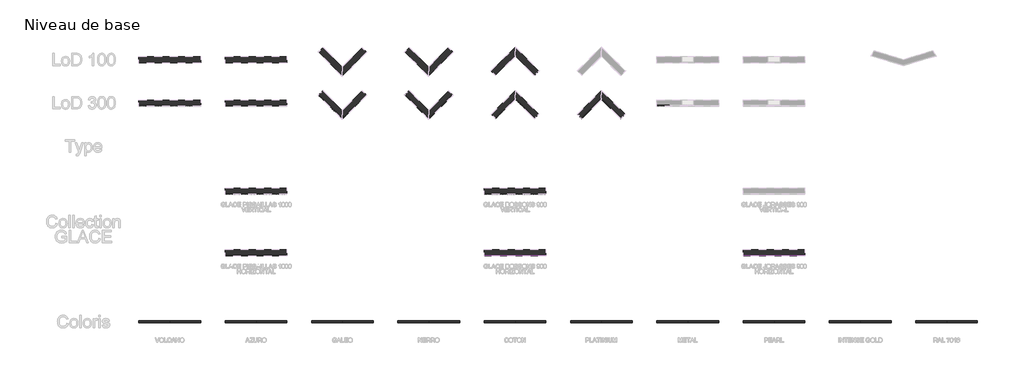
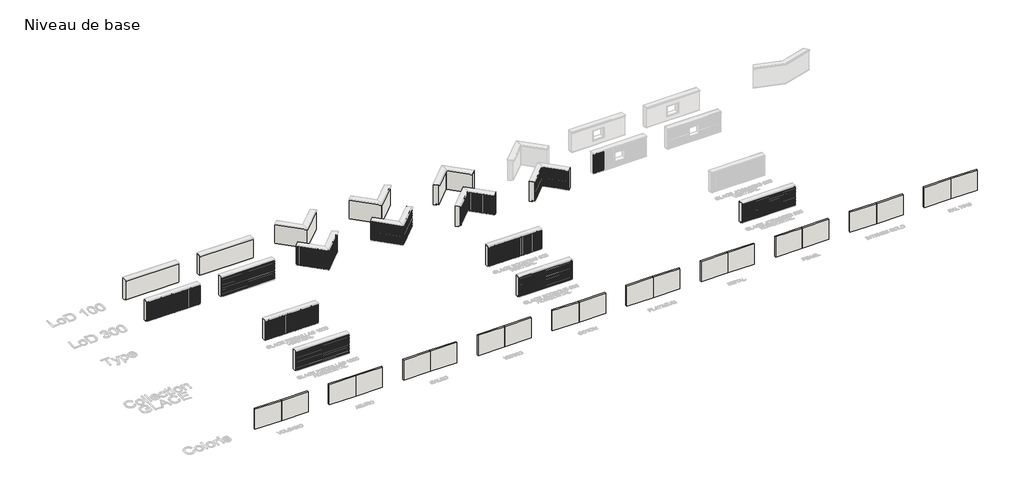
# One storey, part 1 of 13: 47 plates, 43 walls, 6 members.
"""IFC4 building model written with IfcOpenShell, lengths in millimetres."""

from ifc_helpers import new_model, si_unit, frame, origin, origin_with_axes, place, context, project, spatial, polyline, outline, extrude, faceted_brep, transform, mapped, element, save
from components import member_5640643a, member_f168e29d, member_e2f5a6cd, member_e705cef6, member_c28fed5e, member_db60f157, plate_a25a821f, plate_bb810d9b, plate_214b08ff, plate_0162e0f9, plate_1b95be21, plate_263a0a5c, plate_bc900c31, plate_7cee7cfb, plate_a5a6b24f, plate_3c911e78, plate_21100d2b, plate_e6db59d2, plate_addd3eff, plate_5a031bc4, plate_7a9f71c7, plate_172fc0bb, plate_3dbbf8c4, plate_66d4686d

model = new_model("IFC4")

# Units and contexts
model_context = context("Model", 3, world=origin())
ifc_project = project(units=[si_unit("LENGTHUNIT", "METRE", prefix="MILLI")], contexts=[model_context])

# Site, building, storey
site = spatial("IfcSite", under=ifc_project)
building = spatial("IfcBuilding", under=site)
storey = spatial("IfcBuildingStorey", under=building, Name="Niveau de base", Elevation=0.0)

# Members
placement = place(None, origin())
member_shape = member_5640643a(model_context)
element("IfcMember", 1, ObjectType="Meneau d'angle en L : ATELIERS 3S_Angle sortant", at=placement, inside=storey, context=model_context, shape_type="MappedRepresentation", body=[
    mapped(member_shape, transform((-10442.9704237, 40009.4162142, 100.0), x_axis=(0.7071067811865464, -0.7071067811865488, 0.0), y_axis=(-0.7071067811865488, -0.7071067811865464, 0.0), z_axis=(0.0, 0.0, -1.0))),
])
member_2_shape = member_f168e29d(model_context)
element("IfcMember", 2, ObjectType="Meneau d'angle en L : ATELIERS 3S_Angle rentrant", at=placement, inside=storey, context=model_context, shape_type="MappedRepresentation", body=[
    mapped(member_2_shape, transform((3557.0295763, 41631.1656168, 100.0), x_axis=(0.7071067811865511, 0.707106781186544, 0.0), y_axis=(0.707106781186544, -0.7071067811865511, 0.0), z_axis=(0.0, 0.0, -1.0))),
])
member_3_shape = member_e2f5a6cd(model_context)
element("IfcMember", 3, ObjectType="Meneau d'angle en L : ATELIERS 3S_Angle sortant", at=placement, inside=storey, context=model_context, shape_type="MappedRepresentation", body=[
    mapped(member_3_shape, transform((-3442.9704237, 40009.4162142, 2000.0), x_axis=(-0.7071067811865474, -0.7071067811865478, 0.0), y_axis=(0.7071067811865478, -0.7071067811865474, 0.0), z_axis=(0.0, 0.0, 1.0))),
])
member_4_shape = member_e705cef6(model_context)
element("IfcMember", 4, ObjectType="Meneau d'angle en L : ATELIERS 3S_Angle rentrant", at=placement, inside=storey, context=model_context, shape_type="MappedRepresentation", body=[
    mapped(member_4_shape, transform((10557.0295763, 41631.1656168, 1100.0), x_axis=(0.7071067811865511, 0.707106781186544, 0.0), y_axis=(0.707106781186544, -0.7071067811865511, 0.0), z_axis=(0.0, 0.0, -1.0))),
])
member_5_shape = member_c28fed5e(model_context)
element("IfcMember", 5, ObjectType="Meneau d'angle en L : ATELIERS 3S_Angle rentrant", at=placement, inside=storey, context=model_context, shape_type="MappedRepresentation", body=[
    mapped(member_5_shape, transform((10557.0295763, 41631.1656168, 100.0), x_axis=(0.7071067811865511, 0.707106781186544, 0.0), y_axis=(0.707106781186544, -0.7071067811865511, 0.0), z_axis=(0.0, 0.0, -1.0))),
])
member_6_shape = member_db60f157(model_context)
element("IfcMember", 6, ObjectType="Meneau d'angle en L : ATELIERS 3S_Angle sortant", at=placement, inside=storey, context=model_context, shape_type="MappedRepresentation", body=[
    mapped(member_6_shape, transform((-3442.9704237, 40009.4162142, 1100.0), x_axis=(-0.7071067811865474, -0.7071067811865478, 0.0), y_axis=(0.7071067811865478, -0.7071067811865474, 0.0), z_axis=(0.0, 0.0, 1.0))),
])

# Plates
plate_shape = plate_a25a821f(model_context)
element("IfcPlate", 7, ObjectType="ATELIERS 3S_GLACE PISSAILLAS 1000_VERTICAL : AZURO", at=placement, inside=storey, context=model_context, shape_type="MappedRepresentation", body=[
    mapped(plate_shape, transform((-26442.9704236, 41055.7785953, 100.0), x_axis=(1.0, 0.0, 0.0), y_axis=(0.0, 1.0, 0.0), z_axis=(0.0, 0.0, 1.0))),
])
element("IfcPlate", 8, ObjectType="ATELIERS 3S_GLACE PISSAILLAS 1000_VERTICAL : AZURO", at=placement, inside=storey, context=model_context, shape_type="MappedRepresentation", body=[
    mapped(plate_shape, transform((-12009.9190507, 41576.3648412, 100.0), x_axis=(0.7071067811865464, -0.7071067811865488, 0.0), y_axis=(0.7071067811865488, 0.7071067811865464, 0.0), z_axis=(0.0, 0.0, 1.0))),
])
element("IfcPlate", 9, ObjectType="ATELIERS 3S_GLACE PISSAILLAS 1000_VERTICAL : AZURO", at=placement, inside=storey, context=model_context, shape_type="MappedRepresentation", body=[
    mapped(plate_shape, transform((-10080.9317516, 40371.4548863, 100.0), x_axis=(0.7071067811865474, 0.7071067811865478, 0.0), y_axis=(-0.7071067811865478, 0.7071067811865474, 0.0), z_axis=(0.0, 0.0, 1.0))),
])
element("IfcPlate", 10, ObjectType="ATELIERS 3S_GLACE PISSAILLAS 1000_VERTICAL : AZURO", at=placement, inside=storey, context=model_context, shape_type="MappedRepresentation", body=[
    mapped(plate_shape, transform((-11302.8122694, 40869.2580599, 100.0), x_axis=(0.7071067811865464, -0.7071067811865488, 0.0), y_axis=(0.7071067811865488, 0.7071067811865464, 0.0), z_axis=(0.0, 0.0, 1.0))),
])
element("IfcPlate", 11, ObjectType="ATELIERS 3S_GLACE PISSAILLAS 1000_VERTICAL : AZURO", at=placement, inside=storey, context=model_context, shape_type="MappedRepresentation", body=[
    mapped(plate_shape, transform((3002.65786, 41076.7939006, 100.0), x_axis=(0.7071067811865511, 0.707106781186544, 0.0), y_axis=(-0.707106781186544, 0.7071067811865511, 0.0), z_axis=(0.0, 0.0, 1.0))),
])
element("IfcPlate", 12, ObjectType="ATELIERS 3S_GLACE PISSAILLAS 1000_VERTICAL : AZURO", at=placement, inside=storey, context=model_context, shape_type="MappedRepresentation", body=[
    mapped(plate_shape, transform((4653.3986407, 40534.7965524, 100.0), x_axis=(0.7071067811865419, -0.7071067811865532, 0.0), y_axis=(0.7071067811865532, 0.7071067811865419, 0.0), z_axis=(0.0, 0.0, 1.0))),
])
element("IfcPlate", 13, ObjectType="ATELIERS 3S_GLACE PISSAILLAS 1000_VERTICAL : AZURO", at=placement, inside=storey, context=model_context, shape_type="MappedRepresentation", body=[
    mapped(plate_shape, transform((-9373.8249704, 41078.5616676, 100.0), x_axis=(0.7071067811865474, 0.7071067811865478, 0.0), y_axis=(-0.7071067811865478, 0.7071067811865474, 0.0), z_axis=(0.0, 0.0, 1.0))),
])
element("IfcPlate", 14, ObjectType="ATELIERS 3S_GLACE PISSAILLAS 1000_VERTICAL : AZURO", at=placement, inside=storey, context=model_context, shape_type="MappedRepresentation", body=[
    mapped(plate_shape, transform((-25442.9704234, 41055.7785953, 100.0), x_axis=(1.0, 0.0, 0.0), y_axis=(0.0, 1.0, 0.0), z_axis=(0.0, 0.0, 1.0))),
])
element("IfcPlate", 15, ObjectType="ATELIERS 3S_GLACE PISSAILLAS 1000_VERTICAL : AZURO", at=placement, inside=storey, context=model_context, shape_type="MappedRepresentation", body=[
    mapped(plate_shape, transform((-24442.9704234, 41055.7785953, 100.0), x_axis=(1.0, 0.0, 0.0), y_axis=(0.0, 1.0, 0.0), z_axis=(0.0, 0.0, 1.0))),
])
element("IfcPlate", 16, ObjectType="ATELIERS 3S_GLACE PISSAILLAS 1000_VERTICAL : AZURO", at=placement, inside=storey, context=model_context, shape_type="MappedRepresentation", body=[
    mapped(plate_shape, transform((-23442.9704234, 41055.7785953, 100.0), x_axis=(1.0, 0.0, 0.0), y_axis=(0.0, 1.0, 0.0), z_axis=(0.0, 0.0, 1.0))),
])
element("IfcPlate", 17, ObjectType="ATELIERS 3S_GLACE PISSAILLAS 1000_VERTICAL : AZURO", at=placement, inside=storey, context=model_context, shape_type="MappedRepresentation", body=[
    mapped(plate_shape, transform((-22442.9704236, 41055.7785953, 100.0), x_axis=(1.0, 0.0, 0.0), y_axis=(0.0, 1.0, 0.0), z_axis=(0.0, 0.0, 1.0))),
])
element("IfcPlate", 18, ObjectType="ATELIERS 3S_GLACE PISSAILLAS 1000_VERTICAL : AZURO", at=placement, inside=storey, context=model_context, shape_type="MappedRepresentation", body=[
    mapped(plate_shape, transform((-19442.9704236, 33905.7785953, 100.0), x_axis=(1.0, 0.0, 0.0), y_axis=(0.0, 1.0, 0.0), z_axis=(0.0, 0.0, 1.0))),
])
element("IfcPlate", 19, ObjectType="ATELIERS 3S_GLACE PISSAILLAS 1000_VERTICAL : AZURO", at=placement, inside=storey, context=model_context, shape_type="MappedRepresentation", body=[
    mapped(plate_shape, transform((-18442.9704234, 33905.7785953, 100.0), x_axis=(1.0, 0.0, 0.0), y_axis=(0.0, 1.0, 0.0), z_axis=(0.0, 0.0, 1.0))),
])
element("IfcPlate", 20, ObjectType="ATELIERS 3S_GLACE PISSAILLAS 1000_VERTICAL : AZURO", at=placement, inside=storey, context=model_context, shape_type="MappedRepresentation", body=[
    mapped(plate_shape, transform((-17442.9704234, 33905.7785953, 100.0), x_axis=(1.0, 0.0, 0.0), y_axis=(0.0, 1.0, 0.0), z_axis=(0.0, 0.0, 1.0))),
])
element("IfcPlate", 21, ObjectType="ATELIERS 3S_GLACE PISSAILLAS 1000_VERTICAL : AZURO", at=placement, inside=storey, context=model_context, shape_type="MappedRepresentation", body=[
    mapped(plate_shape, transform((-16442.9704234, 33905.7785953, 100.0), x_axis=(1.0, 0.0, 0.0), y_axis=(0.0, 1.0, 0.0), z_axis=(0.0, 0.0, 1.0))),
])
element("IfcPlate", 22, ObjectType="ATELIERS 3S_GLACE PISSAILLAS 1000_VERTICAL : AZURO", at=placement, inside=storey, context=model_context, shape_type="MappedRepresentation", body=[
    mapped(plate_shape, transform((-15442.9704236, 33905.7785953, 100.0), x_axis=(1.0, 0.0, 0.0), y_axis=(0.0, 1.0, 0.0), z_axis=(0.0, 0.0, 1.0))),
])
element("IfcPlate", 23, ObjectType="ATELIERS 3S_GLACE PISSAILLAS 1000_VERTICAL : AZURO", at=placement, inside=storey, context=model_context, shape_type="MappedRepresentation", body=[
    mapped(plate_shape, transform((2295.5510788, 40369.6871193, 100.0), x_axis=(0.7071067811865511, 0.707106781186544, 0.0), y_axis=(-0.707106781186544, 0.7071067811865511, 0.0), z_axis=(0.0, 0.0, 1.0))),
])
element("IfcPlate", 24, ObjectType="ATELIERS 3S_GLACE PISSAILLAS 1000_VERTICAL : AZURO", at=placement, inside=storey, context=model_context, shape_type="MappedRepresentation", body=[
    mapped(plate_shape, transform((3946.2918594, 41241.9033337, 100.0), x_axis=(0.7071067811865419, -0.7071067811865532, 0.0), y_axis=(0.7071067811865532, 0.7071067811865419, 0.0), z_axis=(0.0, 0.0, 1.0))),
])
plate_2_shape = plate_bb810d9b(model_context)
element("IfcPlate", 25, ObjectType="ATELIERS 3S_GLACE PISSAILLAS 1000_VERTICAL : AZURO", at=placement, inside=storey, context=model_context, shape_type="MappedRepresentation", body=[
    mapped(plate_2_shape, transform((-10700.357292, 40266.8030824, 100.0), x_axis=(0.7071067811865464, -0.7071067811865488, 0.0), y_axis=(0.7071067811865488, 0.7071067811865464, 0.0), z_axis=(0.0, 0.0, 1.0))),
])
plate_3_shape = plate_214b08ff(model_context)
element("IfcPlate", 26, ObjectType="ATELIERS 3S_GLACE PISSAILLAS 1000_VERTICAL : AZURO", at=placement, inside=storey, context=model_context, shape_type="MappedRepresentation", body=[
    mapped(plate_3_shape, transform((-8774.7287501, 41677.6578878, 100.0), x_axis=(0.7071067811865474, 0.7071067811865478, 0.0), y_axis=(-0.7071067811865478, 0.7071067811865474, 0.0), z_axis=(0.0, 0.0, 1.0))),
])
plate_4_shape = plate_0162e0f9(model_context)
element("IfcPlate", 27, ObjectType="ATELIERS 3S_GLACE PISSAILLAS 1000_VERTICAL : AZURO", at=placement, inside=storey, context=model_context, shape_type="MappedRepresentation", body=[
    mapped(plate_4_shape, transform((3438.7659672, 41512.9020078, 100.0), x_axis=(0.7071067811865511, 0.707106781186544, 0.0), y_axis=(-0.707106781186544, 0.7071067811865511, 0.0), z_axis=(0.0, 0.0, 1.0))),
])
element("IfcPlate", 28, ObjectType="ATELIERS 3S_GLACE PISSAILLAS 1000_VERTICAL : AZURO", at=placement, inside=storey, context=model_context, shape_type="MappedRepresentation", body=[
    mapped(plate_4_shape, transform((5089.5067479, 40098.6884452, 100.0), x_axis=(0.7071067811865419, -0.7071067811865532, 0.0), y_axis=(0.7071067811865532, 0.7071067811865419, 0.0), z_axis=(0.0, 0.0, 1.0))),
])
plate_5_shape = plate_1b95be21(model_context)
element("IfcPlate", 29, ObjectType="ATELIERS 3S_GLACE PISSAILLAS 1000_HORIZONTAL : AZURO", at=placement, inside=storey, context=model_context, shape_type="MappedRepresentation", body=[
    mapped(plate_5_shape, transform((-17442.9704237, 41055.7785953, 100.0), x_axis=(1.0, 0.0, 0.0), y_axis=(0.0, 1.0, 0.0), z_axis=(0.0, 0.0, 1.0))),
])
element("IfcPlate", 30, ObjectType="ATELIERS 3S_GLACE PISSAILLAS 1000_HORIZONTAL : AZURO", at=placement, inside=storey, context=model_context, shape_type="MappedRepresentation", body=[
    mapped(plate_5_shape, transform((-17442.9704237, 28905.7785953, 100.0), x_axis=(1.0, 0.0, 0.0), y_axis=(0.0, 1.0, 0.0), z_axis=(0.0, 0.0, 1.0))),
])
plate_6_shape = plate_263a0a5c(model_context)
element("IfcPlate", 31, ObjectType="ATELIERS 3S_GLACE PISSAILLAS 1000_HORIZONTAL : AZURO", at=placement, inside=storey, context=model_context, shape_type="MappedRepresentation", body=[
    mapped(plate_6_shape, transform((-4407.4640733, 40973.9098637, 100.0), x_axis=(0.7071067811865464, -0.7071067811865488, 0.0), y_axis=(0.7071067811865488, 0.7071067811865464, 0.0), z_axis=(0.0, 0.0, 1.0))),
])
plate_7_shape = plate_bc900c31(model_context)
element("IfcPlate", 32, ObjectType="ATELIERS 3S_GLACE PISSAILLAS 1000_HORIZONTAL : AZURO", at=placement, inside=storey, context=model_context, shape_type="MappedRepresentation", body=[
    mapped(plate_7_shape, transform((-2481.8355314, 40970.5511065, 100.0), x_axis=(0.7071067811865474, 0.7071067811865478, 0.0), y_axis=(-0.7071067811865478, 0.7071067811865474, 0.0), z_axis=(0.0, 0.0, 1.0))),
])
plate_8_shape = plate_7cee7cfb(model_context)
element("IfcPlate", 33, ObjectType="ATELIERS 3S_GLACE PISSAILLAS 1000_HORIZONTAL : AZURO", at=placement, inside=storey, context=model_context, shape_type="MappedRepresentation", body=[
    mapped(plate_8_shape, transform((-17442.9704237, 41055.7785953, 1100.0), x_axis=(1.0, 0.0, 0.0), y_axis=(0.0, 1.0, 0.0), z_axis=(0.0, 0.0, 1.0))),
])
element("IfcPlate", 34, ObjectType="ATELIERS 3S_GLACE PISSAILLAS 1000_HORIZONTAL : AZURO", at=placement, inside=storey, context=model_context, shape_type="MappedRepresentation", body=[
    mapped(plate_8_shape, transform((-17442.9704237, 28905.7785953, 1100.0), x_axis=(1.0, 0.0, 0.0), y_axis=(0.0, 1.0, 0.0), z_axis=(0.0, 0.0, 1.0))),
])
plate_9_shape = plate_a5a6b24f(model_context)
element("IfcPlate", 35, ObjectType="ATELIERS 3S_GLACE PISSAILLAS 1000_HORIZONTAL : AZURO", at=placement, inside=storey, context=model_context, shape_type="MappedRepresentation", body=[
    mapped(plate_9_shape, transform((-4407.4640733, 40973.9098637, 1100.0), x_axis=(0.7071067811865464, -0.7071067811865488, 0.0), y_axis=(0.7071067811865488, 0.7071067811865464, 0.0), z_axis=(0.0, 0.0, 1.0))),
])
plate_10_shape = plate_3c911e78(model_context)
element("IfcPlate", 36, ObjectType="ATELIERS 3S_GLACE PISSAILLAS 1000_HORIZONTAL : AZURO", at=placement, inside=storey, context=model_context, shape_type="MappedRepresentation", body=[
    mapped(plate_10_shape, transform((-2481.8355314, 40970.5511065, 1100.0), x_axis=(0.7071067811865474, 0.7071067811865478, 0.0), y_axis=(-0.7071067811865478, 0.7071067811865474, 0.0), z_axis=(0.0, 0.0, 1.0))),
])
plate_11_shape = plate_21100d2b(model_context)
element("IfcPlate", 37, ObjectType="ATELIERS 3S_GLACE PISSAILLAS 1000_HORIZONTAL : AZURO", at=placement, inside=storey, context=model_context, shape_type="MappedRepresentation", body=[
    mapped(plate_11_shape, transform((9731.6591859, 40805.7952265, 1100.0), x_axis=(0.7071067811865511, 0.707106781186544, 0.0), y_axis=(-0.707106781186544, 0.7071067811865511, 0.0), z_axis=(0.0, 0.0, 1.0))),
])
element("IfcPlate", 38, ObjectType="ATELIERS 3S_GLACE PISSAILLAS 1000_HORIZONTAL : AZURO", at=placement, inside=storey, context=model_context, shape_type="MappedRepresentation", body=[
    mapped(plate_11_shape, transform((11382.3999666, 40805.7952265, 1100.0), x_axis=(0.7071067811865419, -0.7071067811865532, 0.0), y_axis=(0.7071067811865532, 0.7071067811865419, 0.0), z_axis=(0.0, 0.0, 1.0))),
])
plate_12_shape = plate_e6db59d2(model_context)
element("IfcPlate", 39, ObjectType="ATELIERS 3S_GLACE PISSAILLAS 1000_HORIZONTAL : AZURO", at=placement, inside=storey, context=model_context, shape_type="MappedRepresentation", body=[
    mapped(plate_12_shape, transform((9731.6591859, 40805.7952265, 100.0), x_axis=(0.7071067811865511, 0.707106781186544, 0.0), y_axis=(-0.707106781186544, 0.7071067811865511, 0.0), z_axis=(0.0, 0.0, 1.0))),
])
element("IfcPlate", 40, ObjectType="ATELIERS 3S_GLACE PISSAILLAS 1000_HORIZONTAL : AZURO", at=placement, inside=storey, context=model_context, shape_type="MappedRepresentation", body=[
    mapped(plate_12_shape, transform((11382.3999666, 40805.7952265, 100.0), x_axis=(0.7071067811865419, -0.7071067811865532, 0.0), y_axis=(0.7071067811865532, 0.7071067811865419, 0.0), z_axis=(0.0, 0.0, 1.0))),
])
plate_13_shape = plate_addd3eff(model_context)
element("IfcPlate", 41, ObjectType="ATELIERS 3S_GLACE JORASSES 900_HORIZONTAL : AZURO", at=placement, inside=storey, context=model_context, shape_type="MappedRepresentation", body=[
    mapped(plate_13_shape, transform((24557.0295763, 28905.7785953, 100.0), x_axis=(1.0, 0.0, 0.0), y_axis=(0.0, 1.0, 0.0), z_axis=(0.0, 0.0, 1.0))),
])
element("IfcPlate", 42, ObjectType="ATELIERS 3S_GLACE JORASSES 900_HORIZONTAL : AZURO", at=placement, inside=storey, context=model_context, shape_type="MappedRepresentation", body=[
    mapped(plate_13_shape, transform((24557.0295763, 28905.7785953, 1000.0), x_axis=(1.0, 0.0, 0.0), y_axis=(0.0, 1.0, 0.0), z_axis=(0.0, 0.0, 1.0))),
])
plate_14_shape = plate_5a031bc4(model_context)
element("IfcPlate", 43, ObjectType="ATELIERS 3S_GLACE JORASSES 900_HORIZONTAL : AZURO", at=placement, inside=storey, context=model_context, shape_type="MappedRepresentation", body=[
    mapped(plate_14_shape, transform((24557.0295763, 28905.7785953, 1900.0), x_axis=(1.0, 0.0, 0.0), y_axis=(0.0, 1.0, 0.0), z_axis=(0.0, 0.0, 1.0))),
])
element("IfcPlate", 44, ObjectType="ATELIERS 3S_GLACE PISSAILLAS 1000_VERTICAL : AZURO", at=placement, inside=storey, context=model_context, shape_type="MappedRepresentation", body=[
    mapped(plate_shape, transform((15557.0295764, 41054.9785953, 100.0), x_axis=(1.0, 0.0, 0.0), y_axis=(0.0, 1.0, 0.0), z_axis=(0.0, 0.0, 1.0))),
])
plate_15_shape = plate_7a9f71c7(model_context)
element("IfcPlate", 45, ObjectType="ATELIERS 3S_GLACE BOSSONS 900_VERTICAL : AZURO", at=placement, inside=storey, context=model_context, shape_type="MappedRepresentation", body=[
    mapped(plate_15_shape, transform((1507.0295764, 33905.7785953, 100.0), x_axis=(1.0, 0.0, 0.0), y_axis=(0.0, 1.0, 0.0), z_axis=(0.0, 0.0, 1.0))),
])
element("IfcPlate", 46, ObjectType="ATELIERS 3S_GLACE BOSSONS 900_VERTICAL : AZURO", at=placement, inside=storey, context=model_context, shape_type="MappedRepresentation", body=[
    mapped(plate_15_shape, transform((2407.0295766, 33905.7785953, 100.0), x_axis=(1.0, 0.0, 0.0), y_axis=(0.0, 1.0, 0.0), z_axis=(0.0, 0.0, 1.0))),
])
element("IfcPlate", 47, ObjectType="ATELIERS 3S_GLACE BOSSONS 900_VERTICAL : AZURO", at=placement, inside=storey, context=model_context, shape_type="MappedRepresentation", body=[
    mapped(plate_15_shape, transform((3307.0295766, 33905.7785953, 100.0), x_axis=(1.0, 0.0, 0.0), y_axis=(0.0, 1.0, 0.0), z_axis=(0.0, 0.0, 1.0))),
])
element("IfcPlate", 48, ObjectType="ATELIERS 3S_GLACE BOSSONS 900_VERTICAL : AZURO", at=placement, inside=storey, context=model_context, shape_type="MappedRepresentation", body=[
    mapped(plate_15_shape, transform((4207.0295766, 33905.7785953, 100.0), x_axis=(1.0, 0.0, 0.0), y_axis=(0.0, 1.0, 0.0), z_axis=(0.0, 0.0, 1.0))),
])
element("IfcPlate", 49, ObjectType="ATELIERS 3S_GLACE BOSSONS 900_VERTICAL : AZURO", at=placement, inside=storey, context=model_context, shape_type="MappedRepresentation", body=[
    mapped(plate_15_shape, transform((5107.0295766, 33905.7785953, 100.0), x_axis=(1.0, 0.0, 0.0), y_axis=(0.0, 1.0, 0.0), z_axis=(0.0, 0.0, 1.0))),
])
plate_16_shape = plate_172fc0bb(model_context)
element("IfcPlate", 50, ObjectType="ATELIERS 3S_GLACE BOSSONS 900_VERTICAL : AZURO", at=placement, inside=storey, context=model_context, shape_type="MappedRepresentation", body=[
    mapped(plate_16_shape, transform((5807.0295764, 33905.7785953, 100.0), x_axis=(1.0, 0.0, 0.0), y_axis=(0.0, 1.0, 0.0), z_axis=(0.0, 0.0, 1.0))),
])
plate_17_shape = plate_3dbbf8c4(model_context)
element("IfcPlate", 51, ObjectType="ATELIERS 3S_GLACE BOSSONS 900_HORIZONTAL : AZURO", at=placement, inside=storey, context=model_context, shape_type="MappedRepresentation", body=[
    mapped(plate_17_shape, transform((3557.0295763, 28905.7785953, 100.0), x_axis=(1.0, 0.0, 0.0), y_axis=(0.0, 1.0, 0.0), z_axis=(0.0, 0.0, 1.0))),
])
element("IfcPlate", 52, ObjectType="ATELIERS 3S_GLACE BOSSONS 900_HORIZONTAL : AZURO", at=placement, inside=storey, context=model_context, shape_type="MappedRepresentation", body=[
    mapped(plate_17_shape, transform((3557.0295763, 28905.7785953, 1000.0), x_axis=(1.0, 0.0, 0.0), y_axis=(0.0, 1.0, 0.0), z_axis=(0.0, 0.0, 1.0))),
])
plate_18_shape = plate_66d4686d(model_context)
element("IfcPlate", 53, ObjectType="ATELIERS 3S_GLACE BOSSONS 900_HORIZONTAL : AZURO", at=placement, inside=storey, context=model_context, shape_type="MappedRepresentation", body=[
    mapped(plate_18_shape, transform((3557.0295763, 28905.7785953, 1900.0), x_axis=(1.0, 0.0, 0.0), y_axis=(0.0, 1.0, 0.0), z_axis=(0.0, 0.0, 1.0))),
])

# Walls
element("IfcWall", 54, ObjectType="ATELIERS 3S_GLACE PISSAILLAS 1000_VERTICAL_AZURO_LoD 100", at=placement, inside=storey, context=model_context, shape_type="SweptSolid", body=[
    extrude(outline(polyline([(44535.7785953, 100.0), (44535.7785953, 2000.0), (45007.7785953, 2000.0), (45007.7785953, 0.0), (44757.7785953, 0.0), (44757.7785953, 100.0), (44576.7785953, 100.0), (44576.7785953, 130.0), (44575.7785953, 130.0), (44575.7785953, 100.0), (44535.7785953, 100.0)])), frame((-26942.9704237, 0.0, 0.0), z_axis=(1.0, 0.0, 0.0), x_axis=(0.0, 1.0, 0.0)), (0.0, 0.0, 1.0), 5000.0),
])
element("IfcWall", 55, ObjectType="ATELIERS 3S_Mur de base_LoD 300", at=placement, inside=storey, context=model_context, shape_type="Brep", body=[
    faceted_brep([(3557.0295763, 41631.1656168, 2000.0), (1941.9976881, 40016.1337286, 2000.0), (1941.9976881, 40016.1337286, 130.0), (3557.0295763, 41631.1656168, 130.0), (3557.0295763, 42242.1058758, 0.0), (1636.5275586, 40321.6038581, 0.0), (1636.5275586, 40321.6038581, 2000.0), (3557.0295763, 42242.1058758, 2000.0), (1813.3042539, 40144.8271628, 0.0), (1813.3042539, 40144.8271628, 100.0), (1941.2905813, 40016.8408354, 100.0), (1941.2905813, 40016.8408354, 130.0), (3557.0295763, 41632.5798304, 130.0), (3557.0295763, 41632.5798304, 100.0), (3557.0295763, 41888.5524852, 100.0), (3557.0295763, 41888.5524852, 0.0)], [[[0, 1, 2, 3]], [[4, 5, 6, 7]], [[1, 0, 7, 6]], [[6, 5, 8, 9, 10, 11, 2, 1]], [[4, 7, 0, 3, 12, 13, 14, 15]], [[5, 4, 15, 8]], [[9, 8, 15, 14]], [[9, 14, 13, 10]], [[11, 12, 3, 2]], [[12, 11, 10, 13]]]),
])
element("IfcWall", 56, ObjectType="ATELIERS 3S_Mur de base_LoD 300", at=placement, inside=storey, context=model_context, shape_type="Brep", body=[
    faceted_brep([(5172.0614645, 40016.1337286, 2000.0), (3557.0295763, 41631.1656168, 2000.0), (3557.0295763, 41631.1656168, 130.0), (5172.0614645, 40016.1337286, 130.0), (5477.531594, 40321.6038581, 0.0), (3557.0295763, 42242.1058758, 0.0), (3557.0295763, 42242.1058758, 2000.0), (5477.531594, 40321.6038581, 2000.0), (5172.7685713, 40016.8408354, 130.0), (5172.7685713, 40016.8408354, 100.0), (5300.7548987, 40144.8271628, 100.0), (5300.7548987, 40144.8271628, 0.0), (3557.0295763, 41888.5524852, 0.0), (3557.0295763, 41888.5524852, 100.0), (3557.0295763, 41632.5798304, 100.0), (3557.0295763, 41632.5798304, 130.0)], [[[0, 1, 2, 3]], [[4, 5, 6, 7]], [[4, 7, 0, 3, 8, 9, 10, 11]], [[1, 0, 7, 6]], [[1, 6, 5, 12, 13, 14, 15, 2]], [[5, 4, 11, 12]], [[13, 12, 11, 10]], [[13, 10, 9, 14]], [[15, 8, 3, 2]], [[8, 15, 14, 9]]]),
])
element("IfcWall", 57, ObjectType="ATELIERS 3S_GLACE PISSAILLAS 1000_VERTICAL_AZURO_LoD 100", at=placement, inside=storey, context=model_context, shape_type="Brep", body=[
    faceted_brep([(3557.0295763, 45102.8813456, 2000.0), (1956.1398237, 43501.991593, 2000.0), (1956.1398237, 43501.991593, 100.0), (3557.0295763, 45102.8813456, 100.0), (3557.0295763, 45770.390147, 0.0), (1622.385423, 43835.7459937, 0.0), (1622.385423, 43835.7459937, 2000.0), (3557.0295763, 45770.390147, 2000.0), (1799.1621183, 43658.9692984, 0.0), (1799.1621183, 43658.9692984, 100.0), (1927.1484456, 43530.982971, 100.0), (1927.1484456, 43530.982971, 130.0), (1927.8555524, 43530.2758642, 130.0), (1927.8555524, 43530.2758642, 100.0), (3557.0295763, 45159.4498881, 100.0), (3557.0295763, 45159.4498881, 130.0), (3557.0295763, 45160.8641016, 130.0), (3557.0295763, 45160.8641016, 100.0), (3557.0295763, 45416.8367564, 100.0), (3557.0295763, 45416.8367564, 0.0)], [[[0, 1, 2, 3]], [[4, 5, 6, 7]], [[1, 0, 7, 6]], [[2, 1, 6, 5, 8, 9, 10, 11, 12, 13]], [[0, 3, 14, 15, 16, 17, 18, 19, 4, 7]], [[5, 4, 19, 8]], [[9, 8, 19, 18]], [[3, 2, 13, 14]], [[9, 18, 17, 10]], [[15, 12, 11, 16]], [[16, 11, 10, 17]], [[12, 15, 14, 13]]]),
])
element("IfcWall", 58, ObjectType="ATELIERS 3S_GLACE PISSAILLAS 1000_VERTICAL_AZURO_LoD 100", at=placement, inside=storey, context=model_context, shape_type="Brep", body=[
    faceted_brep([(5157.9193289, 43501.991593, 100.0), (5157.9193289, 43501.991593, 2000.0), (3557.0295763, 45102.8813456, 2000.0), (3557.0295763, 45102.8813456, 100.0), (5491.6737296, 43835.7459937, 0.0), (3557.0295763, 45770.390147, 0.0), (3557.0295763, 45770.390147, 2000.0), (5491.6737296, 43835.7459937, 2000.0), (5186.2036001, 43530.2758642, 100.0), (5186.2036001, 43530.2758642, 130.0), (5186.9107069, 43530.982971, 130.0), (5186.9107069, 43530.982971, 100.0), (5314.8970343, 43658.9692984, 100.0), (5314.8970343, 43658.9692984, 0.0), (3557.0295763, 45416.8367564, 0.0), (3557.0295763, 45416.8367564, 100.0), (3557.0295763, 45160.8641016, 100.0), (3557.0295763, 45160.8641016, 130.0), (3557.0295763, 45159.4498881, 130.0), (3557.0295763, 45159.4498881, 100.0)], [[[0, 1, 2, 3]], [[4, 5, 6, 7]], [[1, 0, 8, 9, 10, 11, 12, 13, 4, 7]], [[2, 1, 7, 6]], [[3, 2, 6, 5, 14, 15, 16, 17, 18, 19]], [[5, 4, 13, 14]], [[15, 14, 13, 12]], [[0, 3, 19, 8]], [[15, 12, 11, 16]], [[9, 18, 17, 10]], [[10, 17, 16, 11]], [[18, 9, 8, 19]]]),
])
element("IfcWall", 59, ObjectType="ATELIERS 3S_Mur de base_LoD 300", at=placement, inside=storey, context=model_context, shape_type="Brep", body=[
    faceted_brep([(-8827.9385355, 42235.3883614, 0.0), (-10442.9704237, 40620.3564731, 0.0), (-10442.9704237, 40620.3564731, 2000.0), (-8827.9385355, 42235.3883614, 2000.0), (-8522.468406, 41929.9182319, 2000.0), (-10442.9704237, 40009.4162142, 2000.0), (-10442.9704237, 40009.4162142, 130.0), (-8522.468406, 41929.9182319, 130.0), (-8523.1755128, 41930.6253387, 130.0), (-8523.1755128, 41930.6253387, 100.0), (-8651.1618402, 42058.6116661, 100.0), (-8651.1618402, 42058.6116661, 0.0), (-10442.9704237, 40266.8030825, 0.0), (-10442.9704237, 40266.8030825, 100.0), (-10442.9704237, 40010.8304277, 100.0), (-10442.9704237, 40010.8304277, 130.0)], [[[0, 1, 2, 3]], [[4, 5, 6, 7]], [[3, 2, 5, 4]], [[0, 3, 4, 7, 8, 9, 10, 11]], [[2, 1, 12, 13, 14, 15, 6, 5]], [[1, 0, 11, 12]], [[12, 11, 10, 13]], [[13, 10, 9, 14]], [[8, 15, 14, 9]], [[15, 8, 7, 6]]]),
])
element("IfcWall", 60, ObjectType="ATELIERS 3S_Mur de base_LoD 300", at=placement, inside=storey, context=model_context, shape_type="Brep", body=[
    faceted_brep([(-10442.9704237, 40620.3564731, 0.0), (-12058.002312, 42235.3883614, 0.0), (-12058.002312, 42235.3883614, 2000.0), (-10442.9704237, 40620.3564731, 2000.0), (-10442.9704237, 40009.4162142, 2000.0), (-12363.4724414, 41929.9182319, 2000.0), (-12363.4724414, 41929.9182319, 130.0), (-10442.9704237, 40009.4162142, 130.0), (-12234.7790072, 42058.6116661, 0.0), (-12234.7790072, 42058.6116661, 100.0), (-12362.7653346, 41930.6253387, 100.0), (-12362.7653346, 41930.6253387, 130.0), (-10442.9704237, 40010.8304277, 130.0), (-10442.9704237, 40010.8304277, 100.0), (-10442.9704237, 40266.8030825, 100.0), (-10442.9704237, 40266.8030825, 0.0)], [[[0, 1, 2, 3]], [[4, 5, 6, 7]], [[2, 1, 8, 9, 10, 11, 6, 5]], [[3, 2, 5, 4]], [[0, 3, 4, 7, 12, 13, 14, 15]], [[1, 0, 15, 8]], [[8, 15, 14, 9]], [[9, 14, 13, 10]], [[11, 12, 7, 6]], [[12, 11, 10, 13]]]),
])
element("IfcWall", 61, ObjectType="ATELIERS 3S_GLACE PISSAILLAS 1000_VERTICAL_AZURO_LoD 100", at=placement, inside=storey, context=model_context, shape_type="Brep", body=[
    faceted_brep([(-8842.0806711, 45749.530497, 0.0), (-10442.9704237, 44148.6407444, 0.0), (-10442.9704237, 44148.6407444, 2000.0), (-8842.0806711, 45749.530497, 2000.0), (-8508.3262704, 45415.7760963, 2000.0), (-10442.9704237, 43481.1319429, 2000.0), (-10442.9704237, 43481.1319429, 100.0), (-8508.3262704, 45415.7760963, 100.0), (-8536.6105416, 45444.0603675, 100.0), (-8536.6105416, 45444.0603675, 130.0), (-8537.3176484, 45444.7674743, 130.0), (-8537.3176484, 45444.7674743, 100.0), (-8665.3039758, 45572.7538017, 100.0), (-8665.3039758, 45572.7538017, 0.0), (-10442.9704237, 43795.0873538, 0.0), (-10442.9704237, 43795.0873538, 100.0), (-10442.9704237, 43539.114699, 100.0), (-10442.9704237, 43539.114699, 130.0), (-10442.9704237, 43537.7004854, 130.0), (-10442.9704237, 43537.7004854, 100.0)], [[[0, 1, 2, 3]], [[4, 5, 6, 7]], [[3, 2, 5, 4]], [[0, 3, 4, 7, 8, 9, 10, 11, 12, 13]], [[2, 1, 14, 15, 16, 17, 18, 19, 6, 5]], [[1, 0, 13, 14]], [[14, 13, 12, 15]], [[7, 6, 19, 8]], [[15, 12, 11, 16]], [[18, 9, 8, 19]], [[10, 17, 16, 11]], [[9, 18, 17, 10]]]),
])
element("IfcWall", 62, ObjectType="ATELIERS 3S_GLACE PISSAILLAS 1000_VERTICAL_AZURO_LoD 100", at=placement, inside=storey, context=model_context, shape_type="Brep", body=[
    faceted_brep([(-10442.9704237, 44148.6407444, 0.0), (-12043.8601763, 45749.530497, 0.0), (-12043.8601763, 45749.530497, 2000.0), (-10442.9704237, 44148.6407444, 2000.0), (-12377.614577, 45415.7760963, 2000.0), (-12377.614577, 45415.7760963, 100.0), (-10442.9704237, 43481.1319429, 100.0), (-10442.9704237, 43481.1319429, 2000.0), (-12220.6368716, 45572.7538017, 0.0), (-12220.6368716, 45572.7538017, 100.0), (-12348.623199, 45444.7674743, 100.0), (-12348.623199, 45444.7674743, 130.0), (-12349.3303058, 45444.0603675, 130.0), (-12349.3303058, 45444.0603675, 100.0), (-10442.9704237, 43537.7004854, 100.0), (-10442.9704237, 43537.7004854, 130.0), (-10442.9704237, 43539.114699, 130.0), (-10442.9704237, 43539.114699, 100.0), (-10442.9704237, 43795.0873538, 100.0), (-10442.9704237, 43795.0873538, 0.0)], [[[0, 1, 2, 3]], [[4, 5, 6, 7]], [[2, 1, 8, 9, 10, 11, 12, 13, 5, 4]], [[3, 2, 4, 7]], [[0, 3, 7, 6, 14, 15, 16, 17, 18, 19]], [[1, 0, 19, 8]], [[8, 19, 18, 9]], [[6, 5, 13, 14]], [[9, 18, 17, 10]], [[11, 16, 15, 12]], [[12, 15, 14, 13]], [[16, 11, 10, 17]]]),
])
element("IfcWall", 63, ObjectType="ATELIERS 3S_Mur de base_LoD 300", at=placement, inside=storey, context=model_context, shape_type="SweptSolid", body=[
    extrude(outline(polyline([(41487.7785953, 2000.0), (41487.7785953, 0.0), (41237.7785953, 0.0), (41237.7785953, 100.0), (41056.7785953, 100.0), (41056.7785953, 130.0), (41055.7785953, 130.0), (41055.7785953, 2000.0), (41487.7785953, 2000.0)])), frame((-26942.9704237, 0.0, 0.0), z_axis=(1.0, 0.0, 0.0), x_axis=(0.0, 1.0, 0.0)), (0.0, 0.0, 1.0), 5000.0),
])
element("IfcWall", 64, ObjectType="Générique - 150 mm", at=placement, inside=storey, context=model_context, shape_type="SweptSolid", body=[
    extrude(outline(polyline([(-24442.9704237, 23446.7785953), (-26942.9704237, 23446.7785953), (-26942.9704237, 23596.7785953), (-24442.9704237, 23596.7785953), (-24442.9704237, 23446.7785953)])), origin_with_axes(), (0.0, 0.0, 1.0), 2000.0),
])
element("IfcWall", 65, ObjectType="Générique - 150 mm", at=placement, inside=storey, context=model_context, shape_type="SweptSolid", body=[
    extrude(outline(polyline([(-17442.9704237, 23446.7785953), (-19942.9704237, 23446.7785953), (-19942.9704237, 23596.7785953), (-17442.9704237, 23596.7785953), (-17442.9704237, 23446.7785953)])), origin_with_axes(), (0.0, 0.0, 1.0), 2000.0),
])
element("IfcWall", 66, ObjectType="Générique - 150 mm", at=placement, inside=storey, context=model_context, shape_type="SweptSolid", body=[
    extrude(outline(polyline([(-10442.9704237, 23446.7785953), (-12942.9704237, 23446.7785953), (-12942.9704237, 23596.7785953), (-10442.9704237, 23596.7785953), (-10442.9704237, 23446.7785953)])), origin_with_axes(), (0.0, 0.0, 1.0), 2000.0),
])
element("IfcWall", 67, ObjectType="Générique - 150 mm", at=placement, inside=storey, context=model_context, shape_type="SweptSolid", body=[
    extrude(outline(polyline([(-3442.9704237, 23446.7785953), (-5942.9704237, 23446.7785953), (-5942.9704237, 23596.7785953), (-3442.9704237, 23596.7785953), (-3442.9704237, 23446.7785953)])), origin_with_axes(), (0.0, 0.0, 1.0), 2000.0),
])
element("IfcWall", 68, ObjectType="Générique - 150 mm", at=placement, inside=storey, context=model_context, shape_type="SweptSolid", body=[
    extrude(outline(polyline([(3557.0295763, 23446.7785953), (1057.0295763, 23446.7785953), (1057.0295763, 23596.7785953), (3557.0295763, 23596.7785953), (3557.0295763, 23446.7785953)])), origin_with_axes(), (0.0, 0.0, 1.0), 2000.0),
])
element("IfcWall", 69, ObjectType="Générique - 150 mm", at=placement, inside=storey, context=model_context, shape_type="SweptSolid", body=[
    extrude(outline(polyline([(10557.0295763, 23446.7785953), (8057.0295763, 23446.7785953), (8057.0295763, 23596.7785953), (10557.0295763, 23596.7785953), (10557.0295763, 23446.7785953)])), origin_with_axes(), (0.0, 0.0, 1.0), 2000.0),
])
element("IfcWall", 70, ObjectType="Générique - 150 mm", at=placement, inside=storey, context=model_context, shape_type="SweptSolid", body=[
    extrude(outline(polyline([(17557.0295763, 23446.7785953), (15057.0295763, 23446.7785953), (15057.0295763, 23596.7785953), (17557.0295763, 23596.7785953), (17557.0295763, 23446.7785953)])), origin_with_axes(), (0.0, 0.0, 1.0), 2000.0),
])
element("IfcWall", 71, ObjectType="Générique - 150 mm", at=placement, inside=storey, context=model_context, shape_type="SweptSolid", body=[
    extrude(outline(polyline([(24557.0295763, 23446.7785953), (22057.0295763, 23446.7785953), (22057.0295763, 23596.7785953), (24557.0295763, 23596.7785953), (24557.0295763, 23446.7785953)])), origin_with_axes(), (0.0, 0.0, 1.0), 2000.0),
])
element("IfcWall", 72, ObjectType="Générique - 150 mm", at=placement, inside=storey, context=model_context, shape_type="SweptSolid", body=[
    extrude(outline(polyline([(31557.0295763, 23446.7785953), (29057.0295763, 23446.7785953), (29057.0295763, 23596.7785953), (31557.0295763, 23596.7785953), (31557.0295763, 23446.7785953)])), origin_with_axes(), (0.0, 0.0, 1.0), 2000.0),
])
element("IfcWall", 73, ObjectType="Générique - 150 mm", at=placement, inside=storey, context=model_context, shape_type="SweptSolid", body=[
    extrude(outline(polyline([(38557.0295763, 23446.7785953), (36057.0295763, 23446.7785953), (36057.0295763, 23596.7785953), (38557.0295763, 23596.7785953), (38557.0295763, 23446.7785953)])), origin_with_axes(), (0.0, 0.0, 1.0), 2000.0),
])
element("IfcWall", 74, ObjectType="ATELIERS 3S_GLACE PISSAILLAS 1000_HORIZONTAL_AZURO_LoD 100", at=placement, inside=storey, context=model_context, shape_type="SweptSolid", body=[
    extrude(outline(polyline([(44535.7785953, 100.0), (44535.7785953, 2000.0), (45007.7785953, 2000.0), (45007.7785953, 0.0), (44757.7785953, 0.0), (44757.7785953, 100.0), (44576.7785953, 100.0), (44576.7785953, 130.0), (44575.7785953, 130.0), (44575.7785953, 100.0), (44535.7785953, 100.0)])), frame((-19942.9704237, 0.0, 0.0), z_axis=(1.0, 0.0, 0.0), x_axis=(0.0, 1.0, 0.0)), (0.0, 0.0, 1.0), 5000.0),
])
element("IfcWall", 75, ObjectType="ATELIERS 3S_Mur de base_LoD 300", at=placement, inside=storey, context=model_context, shape_type="Brep", body=[
    faceted_brep([(10557.0295763, 41631.1656168, 2000.0), (8941.997688, 40016.1337286, 2000.0), (8941.997688, 40016.1337286, 130.0), (10557.0295763, 41631.1656168, 130.0), (10557.0295763, 42242.1058758, 0.0), (8636.5275586, 40321.6038581, 0.0), (8636.5275586, 40321.6038581, 2000.0), (10557.0295763, 42242.1058758, 2000.0), (8813.3042539, 40144.8271628, 0.0), (8813.3042539, 40144.8271628, 100.0), (8941.2905813, 40016.8408354, 100.0), (8941.2905813, 40016.8408354, 130.0), (10557.0295763, 41632.5798304, 130.0), (10557.0295763, 41632.5798304, 100.0), (10557.0295763, 41888.5524852, 100.0), (10557.0295763, 41888.5524852, 0.0)], [[[0, 1, 2, 3]], [[4, 5, 6, 7]], [[1, 0, 7, 6]], [[6, 5, 8, 9, 10, 11, 2, 1]], [[4, 7, 0, 3, 12, 13, 14, 15]], [[5, 4, 15, 8]], [[9, 8, 15, 14]], [[9, 14, 13, 10]], [[11, 12, 3, 2]], [[12, 11, 10, 13]]]),
])
element("IfcWall", 76, ObjectType="ATELIERS 3S_Mur de base_LoD 300", at=placement, inside=storey, context=model_context, shape_type="Brep", body=[
    faceted_brep([(12172.0614645, 40016.1337286, 2000.0), (10557.0295763, 41631.1656168, 2000.0), (10557.0295763, 41631.1656168, 130.0), (12172.0614645, 40016.1337286, 130.0), (12477.531594, 40321.6038581, 0.0), (10557.0295763, 42242.1058758, 0.0), (10557.0295763, 42242.1058758, 2000.0), (12477.531594, 40321.6038581, 2000.0), (12172.7685713, 40016.8408354, 130.0), (12172.7685713, 40016.8408354, 100.0), (12300.7548987, 40144.8271628, 100.0), (12300.7548987, 40144.8271628, 0.0), (10557.0295763, 41888.5524852, 0.0), (10557.0295763, 41888.5524852, 100.0), (10557.0295763, 41632.5798304, 100.0), (10557.0295763, 41632.5798304, 130.0)], [[[0, 1, 2, 3]], [[4, 5, 6, 7]], [[4, 7, 0, 3, 8, 9, 10, 11]], [[1, 0, 7, 6]], [[1, 6, 5, 12, 13, 14, 15, 2]], [[5, 4, 11, 12]], [[13, 12, 11, 10]], [[13, 10, 9, 14]], [[15, 8, 3, 2]], [[8, 15, 14, 9]]]),
])
element("IfcWall", 77, ObjectType="ATELIERS 3S_Mur de base_LoD 300", at=placement, inside=storey, context=model_context, shape_type="Brep", body=[
    faceted_brep([(-1827.9385355, 42235.3883614, 0.0), (-3442.9704237, 40620.3564731, 0.0), (-3442.9704237, 40620.3564731, 2000.0), (-1827.9385355, 42235.3883614, 2000.0), (-1522.468406, 41929.9182319, 2000.0), (-3442.9704237, 40009.4162142, 2000.0), (-3442.9704237, 40009.4162142, 130.0), (-1522.468406, 41929.9182319, 130.0), (-1523.1755128, 41930.6253387, 130.0), (-1523.1755128, 41930.6253387, 100.0), (-1651.1618402, 42058.6116661, 100.0), (-1651.1618402, 42058.6116661, 0.0), (-3442.9704237, 40266.8030825, 0.0), (-3442.9704237, 40266.8030825, 100.0), (-3442.9704237, 40010.8304277, 100.0), (-3442.9704237, 40010.8304277, 130.0)], [[[0, 1, 2, 3]], [[4, 5, 6, 7]], [[3, 2, 5, 4]], [[0, 3, 4, 7, 8, 9, 10, 11]], [[2, 1, 12, 13, 14, 15, 6, 5]], [[1, 0, 11, 12]], [[12, 11, 10, 13]], [[13, 10, 9, 14]], [[8, 15, 14, 9]], [[15, 8, 7, 6]]]),
])
element("IfcWall", 78, ObjectType="ATELIERS 3S_Mur de base_LoD 300", at=placement, inside=storey, context=model_context, shape_type="Brep", body=[
    faceted_brep([(-3442.9704237, 40620.3564731, 0.0), (-5058.002312, 42235.3883614, 0.0), (-5058.002312, 42235.3883614, 2000.0), (-3442.9704237, 40620.3564731, 2000.0), (-3442.9704237, 40009.4162142, 2000.0), (-5363.4724414, 41929.9182319, 2000.0), (-5363.4724414, 41929.9182319, 130.0), (-3442.9704237, 40009.4162142, 130.0), (-5234.7790072, 42058.6116661, 0.0), (-5234.7790072, 42058.6116661, 100.0), (-5362.7653346, 41930.6253387, 100.0), (-5362.7653346, 41930.6253387, 130.0), (-3442.9704237, 40010.8304277, 130.0), (-3442.9704237, 40010.8304277, 100.0), (-3442.9704237, 40266.8030825, 100.0), (-3442.9704237, 40266.8030825, 0.0)], [[[0, 1, 2, 3]], [[4, 5, 6, 7]], [[2, 1, 8, 9, 10, 11, 6, 5]], [[3, 2, 5, 4]], [[0, 3, 4, 7, 12, 13, 14, 15]], [[1, 0, 15, 8]], [[8, 15, 14, 9]], [[9, 14, 13, 10]], [[11, 12, 7, 6]], [[12, 11, 10, 13]]]),
])
element("IfcWall", 79, ObjectType="ATELIERS 3S_GLACE PISSAILLAS 1000_HORIZONTAL_AZURO_LoD 100", at=placement, inside=storey, context=model_context, shape_type="Brep", body=[
    faceted_brep([(-1842.0806711, 45749.530497, 0.0), (-3442.9704237, 44148.6407444, 0.0), (-3442.9704237, 44148.6407444, 2000.0), (-1842.0806711, 45749.530497, 2000.0), (-1508.3262704, 45415.7760963, 2000.0), (-3442.9704237, 43481.1319429, 2000.0), (-3442.9704237, 43481.1319429, 100.0), (-1508.3262704, 45415.7760963, 100.0), (-1536.6105416, 45444.0603675, 100.0), (-1536.6105416, 45444.0603675, 130.0), (-1537.3176484, 45444.7674743, 130.0), (-1537.3176484, 45444.7674743, 100.0), (-1665.3039758, 45572.7538017, 100.0), (-1665.3039758, 45572.7538017, 0.0), (-3442.9704237, 43795.0873538, 0.0), (-3442.9704237, 43795.0873538, 100.0), (-3442.9704237, 43539.114699, 100.0), (-3442.9704237, 43539.114699, 130.0), (-3442.9704237, 43537.7004854, 130.0), (-3442.9704237, 43537.7004854, 100.0)], [[[0, 1, 2, 3]], [[4, 5, 6, 7]], [[3, 2, 5, 4]], [[0, 3, 4, 7, 8, 9, 10, 11, 12, 13]], [[2, 1, 14, 15, 16, 17, 18, 19, 6, 5]], [[1, 0, 13, 14]], [[14, 13, 12, 15]], [[7, 6, 19, 8]], [[15, 12, 11, 16]], [[18, 9, 8, 19]], [[10, 17, 16, 11]], [[9, 18, 17, 10]]]),
])
element("IfcWall", 80, ObjectType="ATELIERS 3S_GLACE PISSAILLAS 1000_HORIZONTAL_AZURO_LoD 100", at=placement, inside=storey, context=model_context, shape_type="Brep", body=[
    faceted_brep([(-3442.9704237, 44148.6407444, 0.0), (-5043.8601763, 45749.530497, 0.0), (-5043.8601763, 45749.530497, 2000.0), (-3442.9704237, 44148.6407444, 2000.0), (-5377.614577, 45415.7760963, 2000.0), (-5377.614577, 45415.7760963, 100.0), (-3442.9704237, 43481.1319429, 100.0), (-3442.9704237, 43481.1319429, 2000.0), (-5220.6368716, 45572.7538017, 0.0), (-5220.6368716, 45572.7538017, 100.0), (-5348.623199, 45444.7674743, 100.0), (-5348.623199, 45444.7674743, 130.0), (-5349.3303058, 45444.0603675, 130.0), (-5349.3303058, 45444.0603675, 100.0), (-3442.9704237, 43537.7004854, 100.0), (-3442.9704237, 43537.7004854, 130.0), (-3442.9704237, 43539.114699, 130.0), (-3442.9704237, 43539.114699, 100.0), (-3442.9704237, 43795.0873538, 100.0), (-3442.9704237, 43795.0873538, 0.0)], [[[0, 1, 2, 3]], [[4, 5, 6, 7]], [[2, 1, 8, 9, 10, 11, 12, 13, 5, 4]], [[3, 2, 4, 7]], [[0, 3, 7, 6, 14, 15, 16, 17, 18, 19]], [[1, 0, 19, 8]], [[8, 19, 18, 9]], [[6, 5, 13, 14]], [[9, 18, 17, 10]], [[11, 16, 15, 12]], [[12, 15, 14, 13]], [[16, 11, 10, 17]]]),
])
element("IfcWall", 81, ObjectType="ATELIERS 3S_Mur de base_LoD 300", at=placement, inside=storey, context=model_context, shape_type="SweptSolid", body=[
    extrude(outline(polyline([(41487.7785953, 2000.0), (41487.7785953, 0.0), (41237.7785953, 0.0), (41237.7785953, 100.0), (41056.7785953, 100.0), (41056.7785953, 130.0), (41055.7785953, 130.0), (41055.7785953, 2000.0), (41487.7785953, 2000.0)])), frame((-19942.9704237, 0.0, 0.0), z_axis=(1.0, 0.0, 0.0), x_axis=(0.0, 1.0, 0.0)), (0.0, 0.0, 1.0), 5000.0),
])
element("IfcWall", 82, ObjectType="Générique - 150 mm", at=placement, inside=storey, context=model_context, shape_type="SweptSolid", body=[
    extrude(outline(polyline([(-21942.9704237, 23446.7785953), (-24442.9704237, 23446.7785953), (-24442.9704237, 23596.7785953), (-21942.9704237, 23596.7785953), (-21942.9704237, 23446.7785953)])), origin_with_axes(), (0.0, 0.0, 1.0), 2000.0),
])
element("IfcWall", 83, ObjectType="Générique - 150 mm", at=placement, inside=storey, context=model_context, shape_type="SweptSolid", body=[
    extrude(outline(polyline([(-14942.9704237, 23446.7785953), (-17442.9704237, 23446.7785953), (-17442.9704237, 23596.7785953), (-14942.9704237, 23596.7785953), (-14942.9704237, 23446.7785953)])), origin_with_axes(), (0.0, 0.0, 1.0), 2000.0),
])
element("IfcWall", 84, ObjectType="Générique - 150 mm", at=placement, inside=storey, context=model_context, shape_type="SweptSolid", body=[
    extrude(outline(polyline([(-7942.9704237, 23446.7785953), (-10442.9704237, 23446.7785953), (-10442.9704237, 23596.7785953), (-7942.9704237, 23596.7785953), (-7942.9704237, 23446.7785953)])), origin_with_axes(), (0.0, 0.0, 1.0), 2000.0),
])
element("IfcWall", 85, ObjectType="Générique - 150 mm", at=placement, inside=storey, context=model_context, shape_type="SweptSolid", body=[
    extrude(outline(polyline([(-942.9704237, 23446.7785953), (-3442.9704237, 23446.7785953), (-3442.9704237, 23596.7785953), (-942.9704237, 23596.7785953), (-942.9704237, 23446.7785953)])), origin_with_axes(), (0.0, 0.0, 1.0), 2000.0),
])
element("IfcWall", 86, ObjectType="Générique - 150 mm", at=placement, inside=storey, context=model_context, shape_type="SweptSolid", body=[
    extrude(outline(polyline([(6057.0295763, 23446.7785953), (3557.0295763, 23446.7785953), (3557.0295763, 23596.7785953), (6057.0295763, 23596.7785953), (6057.0295763, 23446.7785953)])), origin_with_axes(), (0.0, 0.0, 1.0), 2000.0),
])
element("IfcWall", 87, ObjectType="Générique - 150 mm", at=placement, inside=storey, context=model_context, shape_type="SweptSolid", body=[
    extrude(outline(polyline([(13057.0295763, 23446.7785953), (10557.0295763, 23446.7785953), (10557.0295763, 23596.7785953), (13057.0295763, 23596.7785953), (13057.0295763, 23446.7785953)])), origin_with_axes(), (0.0, 0.0, 1.0), 2000.0),
])
element("IfcWall", 88, ObjectType="Générique - 150 mm", at=placement, inside=storey, context=model_context, shape_type="SweptSolid", body=[
    extrude(outline(polyline([(20057.0295763, 23446.7785953), (17557.0295763, 23446.7785953), (17557.0295763, 23596.7785953), (20057.0295763, 23596.7785953), (20057.0295763, 23446.7785953)])), origin_with_axes(), (0.0, 0.0, 1.0), 2000.0),
])
element("IfcWall", 89, ObjectType="Générique - 150 mm", at=placement, inside=storey, context=model_context, shape_type="SweptSolid", body=[
    extrude(outline(polyline([(27057.0295763, 23446.7785953), (24557.0295763, 23446.7785953), (24557.0295763, 23596.7785953), (27057.0295763, 23596.7785953), (27057.0295763, 23446.7785953)])), origin_with_axes(), (0.0, 0.0, 1.0), 2000.0),
])
element("IfcWall", 90, ObjectType="Générique - 150 mm", at=placement, inside=storey, context=model_context, shape_type="SweptSolid", body=[
    extrude(outline(polyline([(34057.0295763, 23446.7785953), (31557.0295763, 23446.7785953), (31557.0295763, 23596.7785953), (34057.0295763, 23596.7785953), (34057.0295763, 23446.7785953)])), origin_with_axes(), (0.0, 0.0, 1.0), 2000.0),
])
element("IfcWall", 91, ObjectType="Générique - 150 mm", at=placement, inside=storey, context=model_context, shape_type="SweptSolid", body=[
    extrude(outline(polyline([(41057.0295763, 23446.7785953), (38557.0295763, 23446.7785953), (38557.0295763, 23596.7785953), (41057.0295763, 23596.7785953), (41057.0295763, 23446.7785953)])), origin_with_axes(), (0.0, 0.0, 1.0), 2000.0),
])
element("IfcWall", 92, ObjectType="ATELIERS 3S_Mur de base_LoD 300", at=placement, inside=storey, context=model_context, shape_type="SweptSolid", body=[
    extrude(outline(polyline([(34337.7785953, 2000.0), (34337.7785953, 0.0), (34087.7785953, 0.0), (34087.7785953, 100.0), (33906.7785953, 100.0), (33906.7785953, 130.0), (33905.7785953, 130.0), (33905.7785953, 2000.0), (34337.7785953, 2000.0)])), frame((-19942.9704237, 0.0, 0.0), z_axis=(1.0, 0.0, 0.0), x_axis=(0.0, 1.0, 0.0)), (0.0, 0.0, 1.0), 5000.0),
])
element("IfcWall", 93, ObjectType="ATELIERS 3S_Mur de base_LoD 300", at=placement, inside=storey, context=model_context, shape_type="SweptSolid", body=[
    extrude(outline(polyline([(29337.7785953, 2000.0), (29337.7785953, 0.0), (29087.7785953, 0.0), (29087.7785953, 100.0), (28906.7785953, 100.0), (28906.7785953, 130.0), (28905.7785953, 130.0), (28905.7785953, 2000.0), (29337.7785953, 2000.0)])), frame((-19942.9704237, 0.0, 0.0), z_axis=(1.0, 0.0, 0.0), x_axis=(0.0, 1.0, 0.0)), (0.0, 0.0, 1.0), 5000.0),
])
element("IfcWall", 94, ObjectType="ATELIERS 3S_Mur de base_LoD 300", at=placement, inside=storey, context=model_context, shape_type="SweptSolid", body=[
    extrude(outline(polyline([(34337.7785953, 2000.0), (34337.7785953, 0.0), (34087.7785953, 0.0), (34087.7785953, 100.0), (33906.7785953, 100.0), (33906.7785953, 130.0), (33905.7785953, 130.0), (33905.7785953, 2000.0), (34337.7785953, 2000.0)])), frame((1057.0295763, 0.0, 0.0), z_axis=(1.0, 0.0, 0.0), x_axis=(0.0, 1.0, 0.0)), (0.0, 0.0, 1.0), 5000.0),
])
element("IfcWall", 95, ObjectType="ATELIERS 3S_Mur de base_LoD 300", at=placement, inside=storey, context=model_context, shape_type="SweptSolid", body=[
    extrude(outline(polyline([(29337.7785953, 2000.0), (29337.7785953, 0.0), (29087.7785953, 0.0), (29087.7785953, 100.0), (28906.7785953, 100.0), (28906.7785953, 130.0), (28905.7785953, 130.0), (28905.7785953, 2000.0), (29337.7785953, 2000.0)])), frame((1057.0295763, 0.0, 0.0), z_axis=(1.0, 0.0, 0.0), x_axis=(0.0, 1.0, 0.0)), (0.0, 0.0, 1.0), 5000.0),
])
element("IfcWall", 96, ObjectType="ATELIERS 3S_Mur de base_LoD 300", at=placement, inside=storey, context=model_context, shape_type="SweptSolid", body=[
    extrude(outline(polyline([(29337.7785953, 2000.0), (29337.7785953, 0.0), (29087.7785953, 0.0), (29087.7785953, 100.0), (28906.7785953, 100.0), (28906.7785953, 130.0), (28905.7785953, 130.0), (28905.7785953, 2000.0), (29337.7785953, 2000.0)])), frame((22057.0295763, 0.0, 0.0), z_axis=(1.0, 0.0, 0.0), x_axis=(0.0, 1.0, 0.0)), (0.0, 0.0, 1.0), 5000.0),
])

save(model, "model.ifc")
